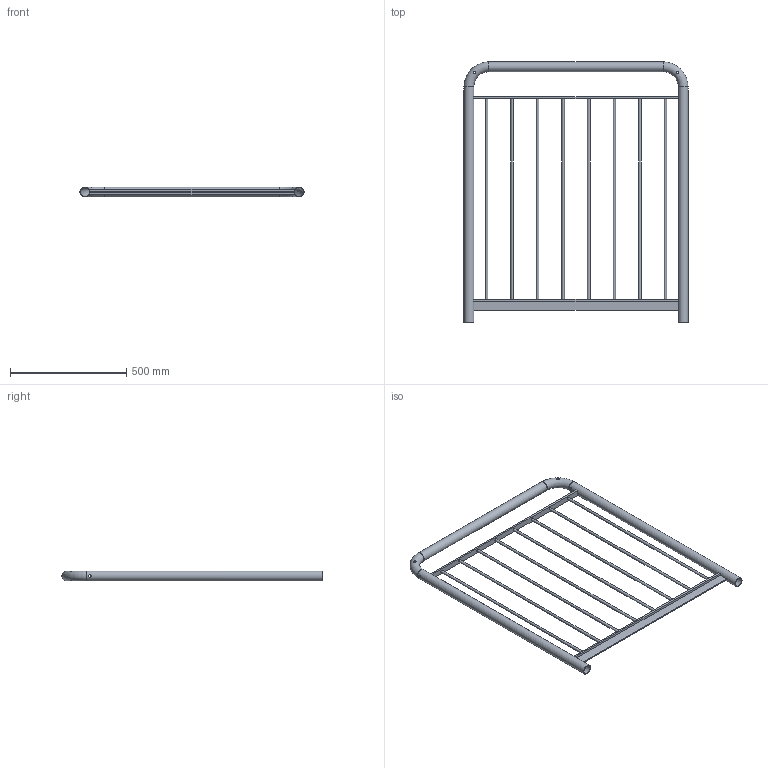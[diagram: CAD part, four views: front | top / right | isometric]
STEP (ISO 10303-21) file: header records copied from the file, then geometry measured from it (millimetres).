
FILE_DESCRIPTION((''),'2;1');
FILE_NAME('S:\Användarkataloger\AndreasA\Mina Inventor filer\Räcken\STEP\modul_bos_1000-1100.stp','2010-09-07T13:28:45',('AndreasA'),(''),'Autodesk Inventor 2011','Autodesk Inventor 2011','');
FILE_SCHEMA(('AUTOMOTIVE_DESIGN { 1 0 10303 214 1 1 1 1 }'));
Length unit declared in the file: millimetre
Products named in the file (4): modul_bos_1000-1100; handledare_modul_1000-1100; galleri_modul_1000; pls_modul_bos_1000
Assembly tree (3 placements, depth 2):
  modul_bos_1000-1100
    handledare_modul_1000-1100
    galleri_modul_1000
    pls_modul_bos_1000
Bounding box: 965.4 x 1121.2 x 42.4 mm (x, y, z)
Volume: 1957724.9 mm3; surface area: 1207574.6 mm2
Topology: 3 solids, 3 shells, 46 faces, 118 edges, 76 vertices
Faces by surface type: cylinder 22, plane 20, torus 4
Full cylindrical faces by diameter (mm): 10 x4, 11 x12, 38.4 x3, 42.4 x3
Entity records: 2031 total; most frequent: CARTESIAN_POINT 917, DIRECTION 198, ORIENTED_EDGE 160, EDGE_LOOP 106, AXIS2_PLACEMENT_3D 81, EDGE_CURVE 80, VERTEX_POINT 68, FACE_BOUND 60
